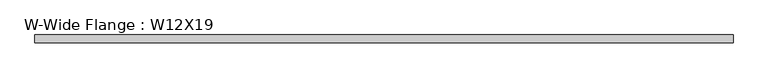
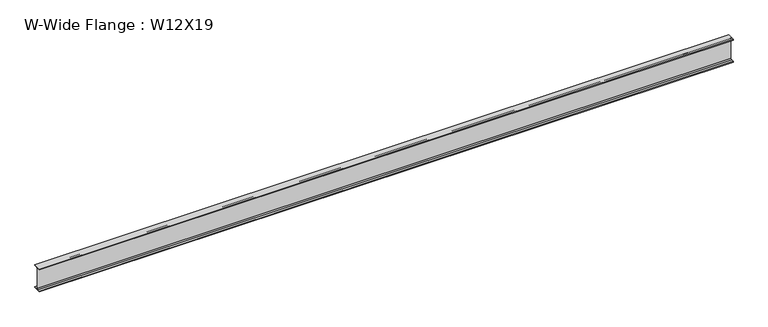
"""IFC4 building model written with IfcOpenShell, lengths in millimetres: beam geometry, W-Wide Flange : W12X19."""

import ifcopenshell
import ifcopenshell.guid

model = None  # the IFC model being written
_history = None  # IfcOwnerHistory: only IFC2X3 demands one
_inside = {}  # id of a spatial element -> (the spatial element, [elements in it])
_under = {}  # id of a project, library or spatial element -> (it, [spatial elements below it])
_declared = {}  # id of a project -> (the project, [libraries it declares])
_typed = {}  # id of a type object -> (the type object, [elements of that type])
_made_of = {}  # id of a material, layer set ... -> (it, [elements and type objects made of it])


def new_model(schema):
    """Start an empty IFC model of exactly this schema.

    Asked for "IFC4X3", IfcOpenShell would pick the latest addendum, in which some entities
    have other attributes; the version numbers below select the first issue.
    IFC2X3 requires an IfcOwnerHistory on every rooted entity: one is made here for all.
    """
    global model, _history
    if schema == "IFC4X3":
        model = ifcopenshell.file(schema_version=(4, 3, 0, 0))
    else:
        model = ifcopenshell.file(schema=schema)
    _inside.clear()
    _under.clear()
    _declared.clear()
    _typed.clear()
    _made_of.clear()
    _history = None
    if model.schema == "IFC2X3":
        org = make("IfcOrganization", Name="unknown")
        user = make(
            "IfcPersonAndOrganization",
            ThePerson=make("IfcPerson", FamilyName="unknown"),
            TheOrganization=org,
        )
        app = make(
            "IfcApplication",
            ApplicationDeveloper=org,
            Version="unknown",
            ApplicationFullName="unknown",
            ApplicationIdentifier="unknown",
        )
        _history = make(
            "IfcOwnerHistory",
            OwningUser=user,
            OwningApplication=app,
            ChangeAction="ADDED",
            CreationDate=0,
        )
    return model


def make(cls, **values):
    """One entity of the class cls with the attributes given. An attribute that is None is left unset."""
    return model.create_entity(
        cls, **{name: value for name, value in values.items() if value is not None}
    )


def rooted(cls, **values):
    """An entity with a GlobalId (a new one), such as an element, a storey or a relation."""
    return make(cls, GlobalId=ifcopenshell.guid.new(), OwnerHistory=_history, **values)


def si_unit(unit_type, name, prefix=None):
    """IfcSIUnit, for example si_unit("LENGTHUNIT", "METRE", prefix="MILLI")."""
    return make("IfcSIUnit", UnitType=unit_type, Prefix=prefix, Name=name)


def assignment(units):
    """IfcUnitAssignment: the units of a project."""
    return None if units is None else make("IfcUnitAssignment", Units=units)


def point(xyz):
    """IfcCartesianPoint."""
    return None if xyz is None else make("IfcCartesianPoint", Coordinates=xyz)


def direction(xyz):
    """IfcDirection."""
    return None if xyz is None else make("IfcDirection", DirectionRatios=xyz)


def frame(location, z_axis=None, x_axis=None):
    """IfcAxis2Placement3D, a coordinate frame: its origin and axes. An axis left out is left unset."""
    return make(
        "IfcAxis2Placement3D",
        Location=point(location),
        Axis=direction(z_axis),
        RefDirection=direction(x_axis),
    )


def frame_2d(location, x_axis=None):
    """IfcAxis2Placement2D, a coordinate frame in the plane: its origin and x axis."""
    return make(
        "IfcAxis2Placement2D", Location=point(location), RefDirection=direction(x_axis)
    )


def origin():
    """The frame at (0, 0, 0) with its axes left unset."""
    return frame((0.0, 0.0, 0.0))


def place(relative_to, where):
    """IfcLocalPlacement: puts the frame where relative to a parent placement (None: the world)."""
    return make(
        "IfcLocalPlacement", PlacementRelTo=relative_to, RelativePlacement=where
    )


def context(
    kind, dimensions, precision=None, world=None, true_north=None, identifier=None
):
    """IfcGeometricRepresentationContext, for example the 3D "Model" context."""
    return make(
        "IfcGeometricRepresentationContext",
        ContextIdentifier=identifier,
        ContextType=kind,
        CoordinateSpaceDimension=dimensions,
        Precision=precision,
        WorldCoordinateSystem=world,
        TrueNorth=true_north,
    )


def project(units=None, contexts=None):
    """IfcProject with its units and contexts."""
    return rooted(
        "IfcProject",
        Name="project",
        RepresentationContexts=contexts,
        UnitsInContext=assignment(units),
    )


def spatial(cls, under=None, at=None, **own):
    """A site, building, storey or space (cls), placed at a placement, below another one or the project."""
    s = rooted(cls, ObjectPlacement=at, **own)
    if under is not None:
        _under.setdefault(under.id(), (under, []))[1].append(s)
    return s


def polyline(points):
    """IfcPolyline through the points."""
    return make("IfcPolyline", Points=[point(p) for p in points])


def circle_curve(where, radius):
    """IfcCircle in the frame where."""
    return make("IfcCircle", Position=where, Radius=radius)


def trimmed(basis, trim1, trim2, sense, master):
    """IfcTrimmedCurve: the piece of a basis curve between two trims."""
    return make(
        "IfcTrimmedCurve",
        BasisCurve=basis,
        Trim1=trim1,
        Trim2=trim2,
        SenseAgreement=sense,
        MasterRepresentation=master,
    )


def segment(curve, same_sense, transition):
    """IfcCompositeCurveSegment."""
    return make(
        "IfcCompositeCurveSegment",
        Transition=transition,
        SameSense=same_sense,
        ParentCurve=curve,
    )


def composite_curve(segments, self_intersect=None):
    """IfcCompositeCurve: segments joined end to end."""
    return make("IfcCompositeCurve", Segments=segments, SelfIntersect=self_intersect)


def outline(outer, holes=None, kind="AREA"):
    """IfcArbitraryClosedProfileDef: a profile drawn as a closed curve; with holes, ...WithVoids."""
    if holes is None:
        return make("IfcArbitraryClosedProfileDef", ProfileType=kind, OuterCurve=outer)
    return make(
        "IfcArbitraryProfileDefWithVoids",
        ProfileType=kind,
        OuterCurve=outer,
        InnerCurves=holes,
    )


def extrude(swept, where, along, depth):
    """IfcExtrudedAreaSolid: the profile swept, set in the frame where, extruded along a direction by depth."""
    return make(
        "IfcExtrudedAreaSolid",
        SweptArea=swept,
        Position=where,
        ExtrudedDirection=direction(along),
        Depth=depth,
    )


def shape(context_of_items, identifier, shape_type, items):
    """IfcShapeRepresentation: the items that make up one representation, for example the "Body"."""
    return make(
        "IfcShapeRepresentation",
        ContextOfItems=context_of_items,
        RepresentationIdentifier=identifier,
        RepresentationType=shape_type,
        Items=items,
    )


def source(mapping_origin, context_of_items, identifier, shape_type, items):
    """IfcRepresentationMap: a shape defined once, which mapped items show again and again."""
    return make(
        "IfcRepresentationMap",
        MappingOrigin=mapping_origin,
        MappedRepresentation=shape(context_of_items, identifier, shape_type, items),
    )


def transform(
    local_origin,
    x_axis=None,
    y_axis=None,
    z_axis=None,
    scale=None,
    scale2=None,
    scale3=None,
    uniform=True,
):
    """IfcCartesianTransformationOperator3D, or its non-uniform kind. x_axis, y_axis, z_axis: its Axis1, 2, 3."""
    if uniform:
        return make(
            "IfcCartesianTransformationOperator3D",
            Axis1=direction(x_axis),
            Axis2=direction(y_axis),
            LocalOrigin=point(local_origin),
            Scale=scale,
            Axis3=direction(z_axis),
        )
    return make(
        "IfcCartesianTransformationOperator3DnonUniform",
        Axis1=direction(x_axis),
        Axis2=direction(y_axis),
        LocalOrigin=point(local_origin),
        Scale=scale,
        Axis3=direction(z_axis),
        Scale2=scale2,
        Scale3=scale3,
    )


def mapped(mapping_source, mapping_target):
    """IfcMappedItem: shows the shape of a source again, moved by a transform."""
    return make(
        "IfcMappedItem", MappingSource=mapping_source, MappingTarget=mapping_target
    )


def made_of(thing, what):
    """Note that an element or type object is made of a material, layer set ...; save() writes the relation."""
    if what is not None:
        _made_of.setdefault(what.id(), (what, []))[1].append(thing)
    return thing


def element(
    cls,
    number,
    at=None,
    inside=None,
    cuts=None,
    type_object=None,
    material=None,
    context=None,
    identifier="Body",
    shape_type=None,
    held_by="IfcProductDefinitionShape",
    body=None,
    shapes=None,
    **own,
):
    """One element of the class cls, such as IfcWall. Its Tag is "e" and its number.

    at: its placement. inside: the storey or other place that contains it. cuts: it is an
    opening in that element (IfcRelVoidsElement). A single representation is given by context,
    identifier, shape_type and body (its items); several are given by shapes. held_by: the class
    of the entity that holds the representations. save() writes the other relations.
    """
    e = rooted(cls, Tag="e%d" % number, ObjectPlacement=at, **own)
    if body is not None:
        shapes = [shape(context, identifier, shape_type, body)]
    if shapes is not None:
        e.Representation = make(held_by, Representations=shapes)
    if inside is not None:
        _inside.setdefault(inside.id(), (inside, []))[1].append(e)
    if cuts is not None:
        rooted(
            "IfcRelVoidsElement", RelatingBuildingElement=cuts, RelatedOpeningElement=e
        )
    if type_object is not None:
        _typed.setdefault(type_object.id(), (type_object, []))[1].append(e)
    return made_of(e, material)


def aggregate(whole, parts):
    """IfcRelAggregates: a whole, such as a stair, and the parts it consists of."""
    return rooted("IfcRelAggregates", RelatingObject=whole, RelatedObjects=parts)


def save(model, path):
    """Write the relations noted so far, then the file.

    IfcRelAggregates (storeys below a building ...), IfcRelContainedInSpatialStructure (elements
    in a storey), IfcRelDefinesByType, IfcRelAssociatesMaterial and IfcRelDeclares: one each for
    every whole, place, type object, material and project.
    """
    for whole, parts in _under.values():
        aggregate(whole, parts)
    for where, things in _inside.values():
        rooted(
            "IfcRelContainedInSpatialStructure",
            RelatedElements=things,
            RelatingStructure=where,
        )
    for kind, things in _typed.values():
        rooted("IfcRelDefinesByType", RelatedObjects=things, RelatingType=kind)
    for what, things in _made_of.values():
        rooted("IfcRelAssociatesMaterial", RelatedObjects=things, RelatingMaterial=what)
    for by, libraries in _declared.values():
        rooted("IfcRelDeclares", RelatingContext=by, RelatedDefinitions=libraries)
    model.write(path)


def w_wide_flange_w12x19_d63bb9e0(model_context):
    return source(origin(), model_context, "Body", "SweptSolid", [
        extrude(outline(composite_curve([segment(polyline([(50.927, -146.05), (50.927, -154.94), (-50.927, -154.94), (-50.927, -146.05), (-16.3195, -146.05)]), True, "CONTINUOUS"), segment(trimmed(circle_curve(frame_2d((-16.3195, -132.715)), 13.335), [point((-16.3195, -146.05))], [point((-2.9845, -132.715))], True, "CARTESIAN"), True, "CONTINUOUS"), segment(polyline([(-2.9845, -132.715), (-2.9845, 132.715)]), True, "CONTINUOUS"), segment(trimmed(circle_curve(frame_2d((-16.3195, 132.715)), 13.335), [point((-2.9845, 132.715))], [point((-16.3195, 146.05))], True, "CARTESIAN"), True, "CONTINUOUS"), segment(polyline([(-16.3195, 146.05), (-50.927, 146.05), (-50.927, 154.94), (50.927, 154.94), (50.927, 146.05), (16.3195, 146.05)]), True, "CONTINUOUS"), segment(trimmed(circle_curve(frame_2d((16.3195, 132.715)), 13.335), [point((16.3195, 146.05))], [point((2.9845, 132.715))], True, "CARTESIAN"), True, "CONTINUOUS"), segment(polyline([(2.9845, 132.715), (2.9845, -132.715)]), True, "CONTINUOUS"), segment(trimmed(circle_curve(frame_2d((16.3195, -132.715)), 13.335), [point((2.9845, -132.715))], [point((16.3195, -146.05))], True, "CARTESIAN"), True, "CONTINUOUS"), segment(polyline([(16.3195, -146.05), (50.927, -146.05)]), True, "CONTINUOUS")], self_intersect=False)), frame((-4381.4503906, 0.0, 0.0), z_axis=(1.0, 0.0, 0.0), x_axis=(0.0, 1.0, 0.0)), (0.0, 0.0, 1.0), 8953.4503906),
    ])


if __name__ == "__main__":
    model = new_model("IFC4")
    model_context = context("Model", 3, world=origin())
    ifc_project = project(units=[si_unit("LENGTHUNIT", "METRE", prefix="MILLI")], contexts=[model_context])
    site = spatial("IfcSite", under=ifc_project)
    building = spatial("IfcBuilding", under=site)
    placement = place(None, origin())
    w_wide_flange_w12x19_shape = w_wide_flange_w12x19_d63bb9e0(model_context)
    element("IfcBeam", 1, ObjectType="W-Wide Flange : W12X19", at=placement, inside=building, context=model_context, shape_type="MappedRepresentation", body=[
        mapped(w_wide_flange_w12x19_shape, transform((0.0, 0.0, 0.0), x_axis=(1.0, 0.0, 0.0), y_axis=(0.0, 1.0, 0.0), z_axis=(0.0, 0.0, 1.0))),
    ])
    save(model, "model.ifc")
